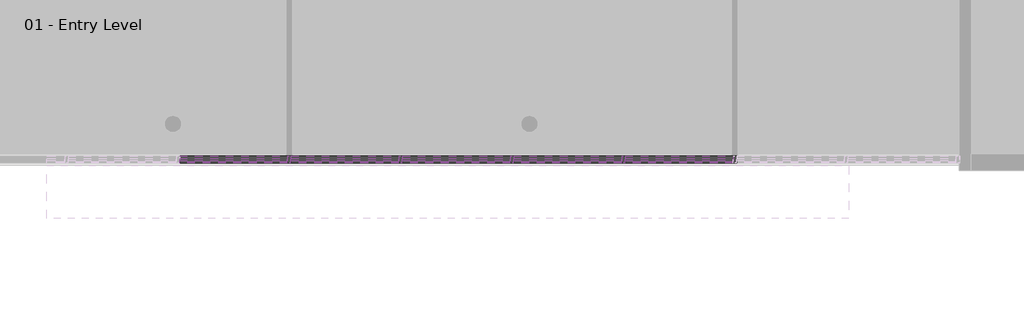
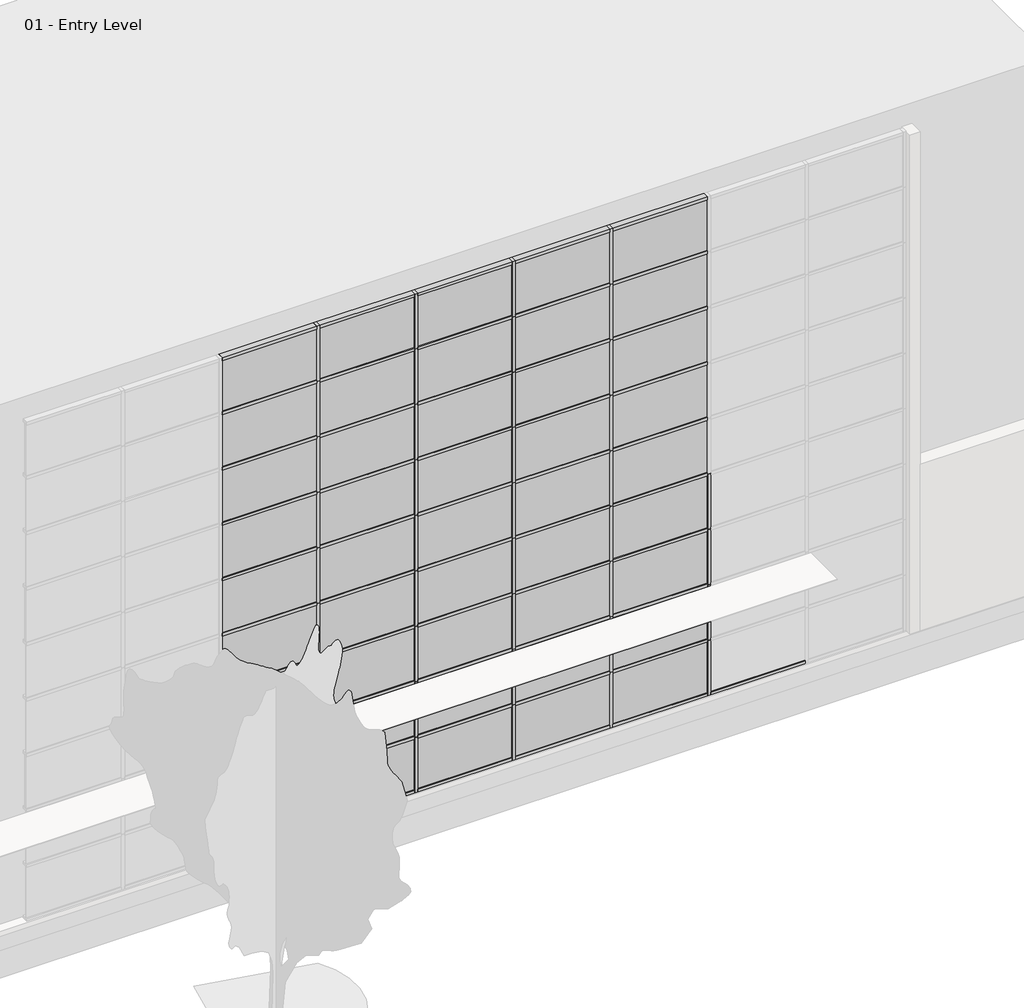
# One storey, part 5 of 35: 90 members, 42 plates.
"""IFC4 building model written with IfcOpenShell, lengths in millimetres."""

import ifcopenshell
import ifcopenshell.guid

model = None  # the IFC model being written
_history = None  # IfcOwnerHistory: only IFC2X3 demands one
_inside = {}  # id of a spatial element -> (the spatial element, [elements in it])
_under = {}  # id of a project, library or spatial element -> (it, [spatial elements below it])
_declared = {}  # id of a project -> (the project, [libraries it declares])
_typed = {}  # id of a type object -> (the type object, [elements of that type])
_made_of = {}  # id of a material, layer set ... -> (it, [elements and type objects made of it])


def new_model(schema):
    """Start an empty IFC model of exactly this schema.

    Asked for "IFC4X3", IfcOpenShell would pick the latest addendum, in which some entities
    have other attributes; the version numbers below select the first issue.
    IFC2X3 requires an IfcOwnerHistory on every rooted entity: one is made here for all.
    """
    global model, _history
    if schema == "IFC4X3":
        model = ifcopenshell.file(schema_version=(4, 3, 0, 0))
    else:
        model = ifcopenshell.file(schema=schema)
    _inside.clear()
    _under.clear()
    _declared.clear()
    _typed.clear()
    _made_of.clear()
    _history = None
    if model.schema == "IFC2X3":
        org = make("IfcOrganization", Name="unknown")
        user = make(
            "IfcPersonAndOrganization",
            ThePerson=make("IfcPerson", FamilyName="unknown"),
            TheOrganization=org,
        )
        app = make(
            "IfcApplication",
            ApplicationDeveloper=org,
            Version="unknown",
            ApplicationFullName="unknown",
            ApplicationIdentifier="unknown",
        )
        _history = make(
            "IfcOwnerHistory",
            OwningUser=user,
            OwningApplication=app,
            ChangeAction="ADDED",
            CreationDate=0,
        )
    return model


def make(cls, **values):
    """One entity of the class cls with the attributes given. An attribute that is None is left unset."""
    return model.create_entity(
        cls, **{name: value for name, value in values.items() if value is not None}
    )


def rooted(cls, **values):
    """An entity with a GlobalId (a new one), such as an element, a storey or a relation."""
    return make(cls, GlobalId=ifcopenshell.guid.new(), OwnerHistory=_history, **values)


def si_unit(unit_type, name, prefix=None):
    """IfcSIUnit, for example si_unit("LENGTHUNIT", "METRE", prefix="MILLI")."""
    return make("IfcSIUnit", UnitType=unit_type, Prefix=prefix, Name=name)


def assignment(units):
    """IfcUnitAssignment: the units of a project."""
    return None if units is None else make("IfcUnitAssignment", Units=units)


def point(xyz):
    """IfcCartesianPoint."""
    return None if xyz is None else make("IfcCartesianPoint", Coordinates=xyz)


def direction(xyz):
    """IfcDirection."""
    return None if xyz is None else make("IfcDirection", DirectionRatios=xyz)


def frame(location, z_axis=None, x_axis=None):
    """IfcAxis2Placement3D, a coordinate frame: its origin and axes. An axis left out is left unset."""
    return make(
        "IfcAxis2Placement3D",
        Location=point(location),
        Axis=direction(z_axis),
        RefDirection=direction(x_axis),
    )


def origin():
    """The frame at (0, 0, 0) with its axes left unset."""
    return frame((0.0, 0.0, 0.0))


def origin_with_axes():
    """The frame at (0, 0, 0) with the z axis (0, 0, 1) and the x axis (1, 0, 0) written out."""
    return frame((0.0, 0.0, 0.0), z_axis=(0.0, 0.0, 1.0), x_axis=(1.0, 0.0, 0.0))


def place(relative_to, where):
    """IfcLocalPlacement: puts the frame where relative to a parent placement (None: the world)."""
    return make(
        "IfcLocalPlacement", PlacementRelTo=relative_to, RelativePlacement=where
    )


def context(
    kind, dimensions, precision=None, world=None, true_north=None, identifier=None
):
    """IfcGeometricRepresentationContext, for example the 3D "Model" context."""
    return make(
        "IfcGeometricRepresentationContext",
        ContextIdentifier=identifier,
        ContextType=kind,
        CoordinateSpaceDimension=dimensions,
        Precision=precision,
        WorldCoordinateSystem=world,
        TrueNorth=true_north,
    )


def project(units=None, contexts=None):
    """IfcProject with its units and contexts."""
    return rooted(
        "IfcProject",
        Name="project",
        RepresentationContexts=contexts,
        UnitsInContext=assignment(units),
    )


def spatial(cls, under=None, at=None, **own):
    """A site, building, storey or space (cls), placed at a placement, below another one or the project."""
    s = rooted(cls, ObjectPlacement=at, **own)
    if under is not None:
        _under.setdefault(under.id(), (under, []))[1].append(s)
    return s


def polyline(points):
    """IfcPolyline through the points."""
    return make("IfcPolyline", Points=[point(p) for p in points])


def outline(outer, holes=None, kind="AREA"):
    """IfcArbitraryClosedProfileDef: a profile drawn as a closed curve; with holes, ...WithVoids."""
    if holes is None:
        return make("IfcArbitraryClosedProfileDef", ProfileType=kind, OuterCurve=outer)
    return make(
        "IfcArbitraryProfileDefWithVoids",
        ProfileType=kind,
        OuterCurve=outer,
        InnerCurves=holes,
    )


def extrude(swept, where, along, depth):
    """IfcExtrudedAreaSolid: the profile swept, set in the frame where, extruded along a direction by depth."""
    return make(
        "IfcExtrudedAreaSolid",
        SweptArea=swept,
        Position=where,
        ExtrudedDirection=direction(along),
        Depth=depth,
    )


def shape(context_of_items, identifier, shape_type, items):
    """IfcShapeRepresentation: the items that make up one representation, for example the "Body"."""
    return make(
        "IfcShapeRepresentation",
        ContextOfItems=context_of_items,
        RepresentationIdentifier=identifier,
        RepresentationType=shape_type,
        Items=items,
    )


def source(mapping_origin, context_of_items, identifier, shape_type, items):
    """IfcRepresentationMap: a shape defined once, which mapped items show again and again."""
    return make(
        "IfcRepresentationMap",
        MappingOrigin=mapping_origin,
        MappedRepresentation=shape(context_of_items, identifier, shape_type, items),
    )


def transform(
    local_origin,
    x_axis=None,
    y_axis=None,
    z_axis=None,
    scale=None,
    scale2=None,
    scale3=None,
    uniform=True,
):
    """IfcCartesianTransformationOperator3D, or its non-uniform kind. x_axis, y_axis, z_axis: its Axis1, 2, 3."""
    if uniform:
        return make(
            "IfcCartesianTransformationOperator3D",
            Axis1=direction(x_axis),
            Axis2=direction(y_axis),
            LocalOrigin=point(local_origin),
            Scale=scale,
            Axis3=direction(z_axis),
        )
    return make(
        "IfcCartesianTransformationOperator3DnonUniform",
        Axis1=direction(x_axis),
        Axis2=direction(y_axis),
        LocalOrigin=point(local_origin),
        Scale=scale,
        Axis3=direction(z_axis),
        Scale2=scale2,
        Scale3=scale3,
    )


def mapped(mapping_source, mapping_target):
    """IfcMappedItem: shows the shape of a source again, moved by a transform."""
    return make(
        "IfcMappedItem", MappingSource=mapping_source, MappingTarget=mapping_target
    )


def made_of(thing, what):
    """Note that an element or type object is made of a material, layer set ...; save() writes the relation."""
    if what is not None:
        _made_of.setdefault(what.id(), (what, []))[1].append(thing)
    return thing


def element(
    cls,
    number,
    at=None,
    inside=None,
    cuts=None,
    type_object=None,
    material=None,
    context=None,
    identifier="Body",
    shape_type=None,
    held_by="IfcProductDefinitionShape",
    body=None,
    shapes=None,
    **own,
):
    """One element of the class cls, such as IfcWall. Its Tag is "e" and its number.

    at: its placement. inside: the storey or other place that contains it. cuts: it is an
    opening in that element (IfcRelVoidsElement). A single representation is given by context,
    identifier, shape_type and body (its items); several are given by shapes. held_by: the class
    of the entity that holds the representations. save() writes the other relations.
    """
    e = rooted(cls, Tag="e%d" % number, ObjectPlacement=at, **own)
    if body is not None:
        shapes = [shape(context, identifier, shape_type, body)]
    if shapes is not None:
        e.Representation = make(held_by, Representations=shapes)
    if inside is not None:
        _inside.setdefault(inside.id(), (inside, []))[1].append(e)
    if cuts is not None:
        rooted(
            "IfcRelVoidsElement", RelatingBuildingElement=cuts, RelatedOpeningElement=e
        )
    if type_object is not None:
        _typed.setdefault(type_object.id(), (type_object, []))[1].append(e)
    return made_of(e, material)


def aggregate(whole, parts):
    """IfcRelAggregates: a whole, such as a stair, and the parts it consists of."""
    return rooted("IfcRelAggregates", RelatingObject=whole, RelatedObjects=parts)


def save(model, path):
    """Write the relations noted so far, then the file.

    IfcRelAggregates (storeys below a building ...), IfcRelContainedInSpatialStructure (elements
    in a storey), IfcRelDefinesByType, IfcRelAssociatesMaterial and IfcRelDeclares: one each for
    every whole, place, type object, material and project.
    """
    for whole, parts in _under.values():
        aggregate(whole, parts)
    for where, things in _inside.values():
        rooted(
            "IfcRelContainedInSpatialStructure",
            RelatedElements=things,
            RelatingStructure=where,
        )
    for kind, things in _typed.values():
        rooted("IfcRelDefinesByType", RelatedObjects=things, RelatingType=kind)
    for what, things in _made_of.values():
        rooted("IfcRelAssociatesMaterial", RelatedObjects=things, RelatingMaterial=what)
    for by, libraries in _declared.values():
        rooted("IfcRelDeclares", RelatingContext=by, RelatedDefinitions=libraries)
    model.write(path)


def member_2b49869a(model_context):
    return source(origin(), model_context, "Body", "SweptSolid", [
        extrude(outline(polyline([(31.75, 63.5), (31.75, -63.5), (-31.75, -63.5), (-31.75, 63.5), (31.75, 63.5)])), frame((0.0, 0.0, -1219.2), z_axis=(0.0, 0.0, 1.0), x_axis=(1.0, 0.0, 0.0)), (0.0, 0.0, 1.0), 1219.2),
    ])


def member_391b434c(model_context):
    return source(origin(), model_context, "Body", "SweptSolid", [
        extrude(outline(polyline([(0.0, 63.5), (0.0, -63.5), (-63.5, -63.5), (-63.5, 63.5), (0.0, 63.5)])), frame((0.0, 0.0, -1968.5), z_axis=(0.0, 0.0, 1.0), x_axis=(1.0, 0.0, 0.0)), (0.0, 0.0, 1.0), 1968.5),
    ])


def member_9e90ae50(model_context):
    return source(origin(), model_context, "Body", "SweptSolid", [
        extrude(outline(polyline([(31.75, 63.5), (31.75, -63.5), (-31.75, -63.5), (-31.75, 63.5), (31.75, 63.5)])), frame((0.0, 0.0, -1968.5), z_axis=(0.0, 0.0, 1.0), x_axis=(1.0, 0.0, 0.0)), (0.0, 0.0, 1.0), 1968.5),
    ])


def system_panel_glazed_1b9d6098(model_context):
    return source(origin(), model_context, "Body", "SweptSolid", [
        extrude(outline(polyline([(984.25, -44.45), (-984.25, -44.45), (-984.25, -19.05), (984.25, -19.05), (984.25, -44.45)])), origin_with_axes(), (0.0, 0.0, 1.0), 1123.95),
    ])


def system_panel_glazed_70da479d(model_context):
    return source(origin(), model_context, "Body", "SweptSolid", [
        extrude(outline(polyline([(984.25, -44.45), (-984.25, -44.45), (-984.25, -19.05), (984.25, -19.05), (984.25, -44.45)])), origin_with_axes(), (0.0, 0.0, 1.0), 1155.7),
    ])


def system_panel_solid_b376696c(model_context):
    return source(origin(), model_context, "Body", "SweptSolid", [
        extrude(outline(polyline([(984.25, -44.45), (-984.25, -44.45), (-984.25, 19.05), (984.25, 19.05), (984.25, -44.45)])), origin_with_axes(), (0.0, 0.0, 1.0), 1123.95),
    ])


def system_panel_solid_77e8b053(model_context):
    return source(origin(), model_context, "Body", "SweptSolid", [
        extrude(outline(polyline([(984.25, -44.45), (-984.25, -44.45), (-984.25, 19.05), (984.25, 19.05), (984.25, -44.45)])), origin_with_axes(), (0.0, 0.0, 1.0), 1155.7),
    ])


model = new_model("IFC4")

# Units and contexts
model_context = context("Model", 3, world=origin())
ifc_project = project(units=[si_unit("LENGTHUNIT", "METRE", prefix="MILLI")], contexts=[model_context])

# Site, building, storey
site = spatial("IfcSite", under=ifc_project)
building = spatial("IfcBuilding", under=site)
storey = spatial("IfcBuildingStorey", under=building, Name="01 - Entry Level", Elevation=0.0)

# Members
placement = place(None, origin())
member_shape = member_2b49869a(model_context)
element("IfcMember", 1, ObjectType="Rectangular Mullion : 2.5\" x 5\" rectangular", at=placement, inside=storey, context=model_context, shape_type="MappedRepresentation", body=[
    mapped(member_shape, transform((50915.2207476, -47.7, 9753.6), x_axis=(1.0, 0.0, 0.0), y_axis=(0.0, -1.0, 0.0), z_axis=(0.0, 0.0, -1.0))),
])
element("IfcMember", 2, ObjectType="Rectangular Mullion : 2.5\" x 5\" rectangular", at=placement, inside=storey, context=model_context, shape_type="MappedRepresentation", body=[
    mapped(member_shape, transform((52947.2207476, -47.7, 9753.6), x_axis=(1.0, 0.0, 0.0), y_axis=(0.0, -1.0, 0.0), z_axis=(0.0, 0.0, -1.0))),
])
element("IfcMember", 3, ObjectType="Rectangular Mullion : 2.5\" x 5\" rectangular", at=placement, inside=storey, context=model_context, shape_type="MappedRepresentation", body=[
    mapped(member_shape, transform((54979.2207476, -47.7, 9753.6), x_axis=(1.0, 0.0, 0.0), y_axis=(0.0, -1.0, 0.0), z_axis=(0.0, 0.0, -1.0))),
])
element("IfcMember", 4, ObjectType="Rectangular Mullion : 2.5\" x 5\" rectangular", at=placement, inside=storey, context=model_context, shape_type="MappedRepresentation", body=[
    mapped(member_shape, transform((57011.2207476, -47.7, 9753.6), x_axis=(1.0, 0.0, 0.0), y_axis=(0.0, -1.0, 0.0), z_axis=(0.0, 0.0, -1.0))),
])
member_2_shape = member_391b434c(model_context)
element("IfcMember", 5, ObjectType="Rectangular Mullion : 2.5\" x 5\" rectangular", at=placement, inside=storey, context=model_context, shape_type="MappedRepresentation", body=[
    mapped(member_2_shape, transform((50883.4707476, -47.7, 10972.8), x_axis=(0.0, 0.0, 1.0), y_axis=(0.0, -1.0, 0.0), z_axis=(1.0, 0.0, 0.0))),
])
element("IfcMember", 6, ObjectType="Rectangular Mullion : 2.5\" x 5\" rectangular", at=placement, inside=storey, context=model_context, shape_type="MappedRepresentation", body=[
    mapped(member_2_shape, transform((52915.4707476, -47.7, 10972.8), x_axis=(0.0, 0.0, 1.0), y_axis=(0.0, -1.0, 0.0), z_axis=(1.0, 0.0, 0.0))),
])
element("IfcMember", 7, ObjectType="Rectangular Mullion : 2.5\" x 5\" rectangular", at=placement, inside=storey, context=model_context, shape_type="MappedRepresentation", body=[
    mapped(member_2_shape, transform((54947.4707476, -47.7, 10972.8), x_axis=(0.0, 0.0, 1.0), y_axis=(0.0, -1.0, 0.0), z_axis=(1.0, 0.0, 0.0))),
])
element("IfcMember", 8, ObjectType="Rectangular Mullion : 2.5\" x 5\" rectangular", at=placement, inside=storey, context=model_context, shape_type="MappedRepresentation", body=[
    mapped(member_2_shape, transform((56979.4707476, -47.7, 10972.8), x_axis=(0.0, 0.0, 1.0), y_axis=(0.0, -1.0, 0.0), z_axis=(1.0, 0.0, 0.0))),
])
element("IfcMember", 9, ObjectType="Rectangular Mullion : 2.5\" x 5\" rectangular", at=placement, inside=storey, context=model_context, shape_type="MappedRepresentation", body=[
    mapped(member_2_shape, transform((59011.4707476, -47.7, 10972.8), x_axis=(0.0, 0.0, 1.0), y_axis=(0.0, -1.0, 0.0), z_axis=(1.0, 0.0, 0.0))),
])
element("IfcMember", 10, ObjectType="Rectangular Mullion : 2.5\" x 5\" rectangular", at=placement, inside=storey, context=model_context, shape_type="MappedRepresentation", body=[
    mapped(member_2_shape, transform((50946.9707476, -47.7, 0.0), x_axis=(0.0, 0.0, -1.0), y_axis=(0.0, -1.0, 0.0), z_axis=(-1.0, 0.0, 0.0))),
])
element("IfcMember", 11, ObjectType="Rectangular Mullion : 2.5\" x 5\" rectangular", at=placement, inside=storey, context=model_context, shape_type="MappedRepresentation", body=[
    mapped(member_2_shape, transform((52978.9707476, -47.7, 0.0), x_axis=(0.0, 0.0, -1.0), y_axis=(0.0, -1.0, 0.0), z_axis=(-1.0, 0.0, 0.0))),
])
element("IfcMember", 12, ObjectType="Rectangular Mullion : 2.5\" x 5\" rectangular", at=placement, inside=storey, context=model_context, shape_type="MappedRepresentation", body=[
    mapped(member_2_shape, transform((55010.9707476, -47.7, 0.0), x_axis=(0.0, 0.0, -1.0), y_axis=(0.0, -1.0, 0.0), z_axis=(-1.0, 0.0, 0.0))),
])
element("IfcMember", 13, ObjectType="Rectangular Mullion : 2.5\" x 5\" rectangular", at=placement, inside=storey, context=model_context, shape_type="MappedRepresentation", body=[
    mapped(member_2_shape, transform((57042.9707476, -47.7, 0.0), x_axis=(0.0, 0.0, -1.0), y_axis=(0.0, -1.0, 0.0), z_axis=(-1.0, 0.0, 0.0))),
])
element("IfcMember", 14, ObjectType="Rectangular Mullion : 2.5\" x 5\" rectangular", at=placement, inside=storey, context=model_context, shape_type="MappedRepresentation", body=[
    mapped(member_2_shape, transform((59074.9707476, -47.7, 0.0), x_axis=(0.0, 0.0, -1.0), y_axis=(0.0, -1.0, 0.0), z_axis=(-1.0, 0.0, 0.0))),
])
member_3_shape = member_9e90ae50(model_context)
element("IfcMember", 15, ObjectType="Rectangular Mullion : 2.5\" x 5\" rectangular", at=placement, inside=storey, context=model_context, shape_type="MappedRepresentation", body=[
    mapped(member_3_shape, transform((50883.4707476, -47.7, 1219.2), x_axis=(0.0, 0.0, 1.0), y_axis=(0.0, -1.0, 0.0), z_axis=(1.0, 0.0, 0.0))),
])
element("IfcMember", 16, ObjectType="Rectangular Mullion : 2.5\" x 5\" rectangular", at=placement, inside=storey, context=model_context, shape_type="MappedRepresentation", body=[
    mapped(member_3_shape, transform((52915.4707476, -47.7, 1219.2), x_axis=(0.0, 0.0, 1.0), y_axis=(0.0, -1.0, 0.0), z_axis=(1.0, 0.0, 0.0))),
])
element("IfcMember", 17, ObjectType="Rectangular Mullion : 2.5\" x 5\" rectangular", at=placement, inside=storey, context=model_context, shape_type="MappedRepresentation", body=[
    mapped(member_3_shape, transform((54947.4707476, -47.7, 1219.2), x_axis=(0.0, 0.0, 1.0), y_axis=(0.0, -1.0, 0.0), z_axis=(1.0, 0.0, 0.0))),
])
element("IfcMember", 18, ObjectType="Rectangular Mullion : 2.5\" x 5\" rectangular", at=placement, inside=storey, context=model_context, shape_type="MappedRepresentation", body=[
    mapped(member_3_shape, transform((56979.4707476, -47.7, 1219.2), x_axis=(0.0, 0.0, 1.0), y_axis=(0.0, -1.0, 0.0), z_axis=(1.0, 0.0, 0.0))),
])
element("IfcMember", 19, ObjectType="Rectangular Mullion : 2.5\" x 5\" rectangular", at=placement, inside=storey, context=model_context, shape_type="MappedRepresentation", body=[
    mapped(member_3_shape, transform((59011.4707476, -47.7, 1219.2), x_axis=(0.0, 0.0, 1.0), y_axis=(0.0, -1.0, 0.0), z_axis=(1.0, 0.0, 0.0))),
])
element("IfcMember", 20, ObjectType="Rectangular Mullion : 2.5\" x 5\" rectangular", at=placement, inside=storey, context=model_context, shape_type="MappedRepresentation", body=[
    mapped(member_3_shape, transform((50883.4707476, -47.7, 2438.4), x_axis=(0.0, 0.0, 1.0), y_axis=(0.0, -1.0, 0.0), z_axis=(1.0, 0.0, 0.0))),
])
element("IfcMember", 21, ObjectType="Rectangular Mullion : 2.5\" x 5\" rectangular", at=placement, inside=storey, context=model_context, shape_type="MappedRepresentation", body=[
    mapped(member_3_shape, transform((52915.4707476, -47.7, 2438.4), x_axis=(0.0, 0.0, 1.0), y_axis=(0.0, -1.0, 0.0), z_axis=(1.0, 0.0, 0.0))),
])
element("IfcMember", 22, ObjectType="Rectangular Mullion : 2.5\" x 5\" rectangular", at=placement, inside=storey, context=model_context, shape_type="MappedRepresentation", body=[
    mapped(member_3_shape, transform((54947.4707476, -47.7, 2438.4), x_axis=(0.0, 0.0, 1.0), y_axis=(0.0, -1.0, 0.0), z_axis=(1.0, 0.0, 0.0))),
])
element("IfcMember", 23, ObjectType="Rectangular Mullion : 2.5\" x 5\" rectangular", at=placement, inside=storey, context=model_context, shape_type="MappedRepresentation", body=[
    mapped(member_3_shape, transform((56979.4707476, -47.7, 2438.4), x_axis=(0.0, 0.0, 1.0), y_axis=(0.0, -1.0, 0.0), z_axis=(1.0, 0.0, 0.0))),
])
element("IfcMember", 24, ObjectType="Rectangular Mullion : 2.5\" x 5\" rectangular", at=placement, inside=storey, context=model_context, shape_type="MappedRepresentation", body=[
    mapped(member_3_shape, transform((59011.4707476, -47.7, 2438.4), x_axis=(0.0, 0.0, 1.0), y_axis=(0.0, -1.0, 0.0), z_axis=(1.0, 0.0, 0.0))),
])
element("IfcMember", 25, ObjectType="Rectangular Mullion : 2.5\" x 5\" rectangular", at=placement, inside=storey, context=model_context, shape_type="MappedRepresentation", body=[
    mapped(member_3_shape, transform((50883.4707476, -47.7, 3657.6), x_axis=(0.0, 0.0, 1.0), y_axis=(0.0, -1.0, 0.0), z_axis=(1.0, 0.0, 0.0))),
])
element("IfcMember", 26, ObjectType="Rectangular Mullion : 2.5\" x 5\" rectangular", at=placement, inside=storey, context=model_context, shape_type="MappedRepresentation", body=[
    mapped(member_3_shape, transform((52915.4707476, -47.7, 3657.6), x_axis=(0.0, 0.0, 1.0), y_axis=(0.0, -1.0, 0.0), z_axis=(1.0, 0.0, 0.0))),
])
element("IfcMember", 27, ObjectType="Rectangular Mullion : 2.5\" x 5\" rectangular", at=placement, inside=storey, context=model_context, shape_type="MappedRepresentation", body=[
    mapped(member_3_shape, transform((54947.4707476, -47.7, 3657.6), x_axis=(0.0, 0.0, 1.0), y_axis=(0.0, -1.0, 0.0), z_axis=(1.0, 0.0, 0.0))),
])
element("IfcMember", 28, ObjectType="Rectangular Mullion : 2.5\" x 5\" rectangular", at=placement, inside=storey, context=model_context, shape_type="MappedRepresentation", body=[
    mapped(member_3_shape, transform((56979.4707476, -47.7, 3657.6), x_axis=(0.0, 0.0, 1.0), y_axis=(0.0, -1.0, 0.0), z_axis=(1.0, 0.0, 0.0))),
])
element("IfcMember", 29, ObjectType="Rectangular Mullion : 2.5\" x 5\" rectangular", at=placement, inside=storey, context=model_context, shape_type="MappedRepresentation", body=[
    mapped(member_3_shape, transform((59011.4707476, -47.7, 3657.6), x_axis=(0.0, 0.0, 1.0), y_axis=(0.0, -1.0, 0.0), z_axis=(1.0, 0.0, 0.0))),
])
element("IfcMember", 30, ObjectType="Rectangular Mullion : 2.5\" x 5\" rectangular", at=placement, inside=storey, context=model_context, shape_type="MappedRepresentation", body=[
    mapped(member_3_shape, transform((50883.4707476, -47.7, 4876.8), x_axis=(0.0, 0.0, 1.0), y_axis=(0.0, -1.0, 0.0), z_axis=(1.0, 0.0, 0.0))),
])
element("IfcMember", 31, ObjectType="Rectangular Mullion : 2.5\" x 5\" rectangular", at=placement, inside=storey, context=model_context, shape_type="MappedRepresentation", body=[
    mapped(member_3_shape, transform((52915.4707476, -47.7, 4876.8), x_axis=(0.0, 0.0, 1.0), y_axis=(0.0, -1.0, 0.0), z_axis=(1.0, 0.0, 0.0))),
])
element("IfcMember", 32, ObjectType="Rectangular Mullion : 2.5\" x 5\" rectangular", at=placement, inside=storey, context=model_context, shape_type="MappedRepresentation", body=[
    mapped(member_3_shape, transform((54947.4707476, -47.7, 4876.8), x_axis=(0.0, 0.0, 1.0), y_axis=(0.0, -1.0, 0.0), z_axis=(1.0, 0.0, 0.0))),
])
element("IfcMember", 33, ObjectType="Rectangular Mullion : 2.5\" x 5\" rectangular", at=placement, inside=storey, context=model_context, shape_type="MappedRepresentation", body=[
    mapped(member_3_shape, transform((56979.4707476, -47.7, 4876.8), x_axis=(0.0, 0.0, 1.0), y_axis=(0.0, -1.0, 0.0), z_axis=(1.0, 0.0, 0.0))),
])
element("IfcMember", 34, ObjectType="Rectangular Mullion : 2.5\" x 5\" rectangular", at=placement, inside=storey, context=model_context, shape_type="MappedRepresentation", body=[
    mapped(member_3_shape, transform((59011.4707476, -47.7, 4876.8), x_axis=(0.0, 0.0, 1.0), y_axis=(0.0, -1.0, 0.0), z_axis=(1.0, 0.0, 0.0))),
])
element("IfcMember", 35, ObjectType="Rectangular Mullion : 2.5\" x 5\" rectangular", at=placement, inside=storey, context=model_context, shape_type="MappedRepresentation", body=[
    mapped(member_3_shape, transform((50883.4707476, -47.7, 6096.0), x_axis=(0.0, 0.0, 1.0), y_axis=(0.0, -1.0, 0.0), z_axis=(1.0, 0.0, 0.0))),
])
element("IfcMember", 36, ObjectType="Rectangular Mullion : 2.5\" x 5\" rectangular", at=placement, inside=storey, context=model_context, shape_type="MappedRepresentation", body=[
    mapped(member_3_shape, transform((52915.4707476, -47.7, 6096.0), x_axis=(0.0, 0.0, 1.0), y_axis=(0.0, -1.0, 0.0), z_axis=(1.0, 0.0, 0.0))),
])
element("IfcMember", 37, ObjectType="Rectangular Mullion : 2.5\" x 5\" rectangular", at=placement, inside=storey, context=model_context, shape_type="MappedRepresentation", body=[
    mapped(member_3_shape, transform((54947.4707476, -47.7, 6096.0), x_axis=(0.0, 0.0, 1.0), y_axis=(0.0, -1.0, 0.0), z_axis=(1.0, 0.0, 0.0))),
])
element("IfcMember", 38, ObjectType="Rectangular Mullion : 2.5\" x 5\" rectangular", at=placement, inside=storey, context=model_context, shape_type="MappedRepresentation", body=[
    mapped(member_3_shape, transform((56979.4707476, -47.7, 6096.0), x_axis=(0.0, 0.0, 1.0), y_axis=(0.0, -1.0, 0.0), z_axis=(1.0, 0.0, 0.0))),
])
element("IfcMember", 39, ObjectType="Rectangular Mullion : 2.5\" x 5\" rectangular", at=placement, inside=storey, context=model_context, shape_type="MappedRepresentation", body=[
    mapped(member_3_shape, transform((59011.4707476, -47.7, 6096.0), x_axis=(0.0, 0.0, 1.0), y_axis=(0.0, -1.0, 0.0), z_axis=(1.0, 0.0, 0.0))),
])
element("IfcMember", 40, ObjectType="Rectangular Mullion : 2.5\" x 5\" rectangular", at=placement, inside=storey, context=model_context, shape_type="MappedRepresentation", body=[
    mapped(member_3_shape, transform((50883.4707476, -47.7, 7315.2), x_axis=(0.0, 0.0, 1.0), y_axis=(0.0, -1.0, 0.0), z_axis=(1.0, 0.0, 0.0))),
])
element("IfcMember", 41, ObjectType="Rectangular Mullion : 2.5\" x 5\" rectangular", at=placement, inside=storey, context=model_context, shape_type="MappedRepresentation", body=[
    mapped(member_3_shape, transform((52915.4707476, -47.7, 7315.2), x_axis=(0.0, 0.0, 1.0), y_axis=(0.0, -1.0, 0.0), z_axis=(1.0, 0.0, 0.0))),
])
element("IfcMember", 42, ObjectType="Rectangular Mullion : 2.5\" x 5\" rectangular", at=placement, inside=storey, context=model_context, shape_type="MappedRepresentation", body=[
    mapped(member_3_shape, transform((54947.4707476, -47.7, 7315.2), x_axis=(0.0, 0.0, 1.0), y_axis=(0.0, -1.0, 0.0), z_axis=(1.0, 0.0, 0.0))),
])
element("IfcMember", 43, ObjectType="Rectangular Mullion : 2.5\" x 5\" rectangular", at=placement, inside=storey, context=model_context, shape_type="MappedRepresentation", body=[
    mapped(member_3_shape, transform((56979.4707476, -47.7, 7315.2), x_axis=(0.0, 0.0, 1.0), y_axis=(0.0, -1.0, 0.0), z_axis=(1.0, 0.0, 0.0))),
])
element("IfcMember", 44, ObjectType="Rectangular Mullion : 2.5\" x 5\" rectangular", at=placement, inside=storey, context=model_context, shape_type="MappedRepresentation", body=[
    mapped(member_3_shape, transform((59011.4707476, -47.7, 7315.2), x_axis=(0.0, 0.0, 1.0), y_axis=(0.0, -1.0, 0.0), z_axis=(1.0, 0.0, 0.0))),
])
element("IfcMember", 45, ObjectType="Rectangular Mullion : 2.5\" x 5\" rectangular", at=placement, inside=storey, context=model_context, shape_type="MappedRepresentation", body=[
    mapped(member_3_shape, transform((50883.4707476, -47.7, 8534.4), x_axis=(0.0, 0.0, 1.0), y_axis=(0.0, -1.0, 0.0), z_axis=(1.0, 0.0, 0.0))),
])
element("IfcMember", 46, ObjectType="Rectangular Mullion : 2.5\" x 5\" rectangular", at=placement, inside=storey, context=model_context, shape_type="MappedRepresentation", body=[
    mapped(member_3_shape, transform((52915.4707476, -47.7, 8534.4), x_axis=(0.0, 0.0, 1.0), y_axis=(0.0, -1.0, 0.0), z_axis=(1.0, 0.0, 0.0))),
])
element("IfcMember", 47, ObjectType="Rectangular Mullion : 2.5\" x 5\" rectangular", at=placement, inside=storey, context=model_context, shape_type="MappedRepresentation", body=[
    mapped(member_3_shape, transform((54947.4707476, -47.7, 8534.4), x_axis=(0.0, 0.0, 1.0), y_axis=(0.0, -1.0, 0.0), z_axis=(1.0, 0.0, 0.0))),
])
element("IfcMember", 48, ObjectType="Rectangular Mullion : 2.5\" x 5\" rectangular", at=placement, inside=storey, context=model_context, shape_type="MappedRepresentation", body=[
    mapped(member_3_shape, transform((56979.4707476, -47.7, 8534.4), x_axis=(0.0, 0.0, 1.0), y_axis=(0.0, -1.0, 0.0), z_axis=(1.0, 0.0, 0.0))),
])
element("IfcMember", 49, ObjectType="Rectangular Mullion : 2.5\" x 5\" rectangular", at=placement, inside=storey, context=model_context, shape_type="MappedRepresentation", body=[
    mapped(member_3_shape, transform((59011.4707476, -47.7, 8534.4), x_axis=(0.0, 0.0, 1.0), y_axis=(0.0, -1.0, 0.0), z_axis=(1.0, 0.0, 0.0))),
])
element("IfcMember", 50, ObjectType="Rectangular Mullion : 2.5\" x 5\" rectangular", at=placement, inside=storey, context=model_context, shape_type="MappedRepresentation", body=[
    mapped(member_3_shape, transform((50883.4707476, -47.7, 9753.6), x_axis=(0.0, 0.0, 1.0), y_axis=(0.0, -1.0, 0.0), z_axis=(1.0, 0.0, 0.0))),
])
element("IfcMember", 51, ObjectType="Rectangular Mullion : 2.5\" x 5\" rectangular", at=placement, inside=storey, context=model_context, shape_type="MappedRepresentation", body=[
    mapped(member_3_shape, transform((52915.4707476, -47.7, 9753.6), x_axis=(0.0, 0.0, 1.0), y_axis=(0.0, -1.0, 0.0), z_axis=(1.0, 0.0, 0.0))),
])
element("IfcMember", 52, ObjectType="Rectangular Mullion : 2.5\" x 5\" rectangular", at=placement, inside=storey, context=model_context, shape_type="MappedRepresentation", body=[
    mapped(member_3_shape, transform((54947.4707476, -47.7, 9753.6), x_axis=(0.0, 0.0, 1.0), y_axis=(0.0, -1.0, 0.0), z_axis=(1.0, 0.0, 0.0))),
])
element("IfcMember", 53, ObjectType="Rectangular Mullion : 2.5\" x 5\" rectangular", at=placement, inside=storey, context=model_context, shape_type="MappedRepresentation", body=[
    mapped(member_3_shape, transform((56979.4707476, -47.7, 9753.6), x_axis=(0.0, 0.0, 1.0), y_axis=(0.0, -1.0, 0.0), z_axis=(1.0, 0.0, 0.0))),
])
element("IfcMember", 54, ObjectType="Rectangular Mullion : 2.5\" x 5\" rectangular", at=placement, inside=storey, context=model_context, shape_type="MappedRepresentation", body=[
    mapped(member_3_shape, transform((59011.4707476, -47.7, 9753.6), x_axis=(0.0, 0.0, 1.0), y_axis=(0.0, -1.0, 0.0), z_axis=(1.0, 0.0, 0.0))),
])
element("IfcMember", 55, ObjectType="Rectangular Mullion : 2.5\" x 5\" rectangular", at=placement, inside=storey, context=model_context, shape_type="MappedRepresentation", body=[
    mapped(member_shape, transform((50915.2207476, -47.7, 0.0), x_axis=(1.0, 0.0, 0.0), y_axis=(0.0, -1.0, 0.0), z_axis=(0.0, 0.0, -1.0))),
])
element("IfcMember", 56, ObjectType="Rectangular Mullion : 2.5\" x 5\" rectangular", at=placement, inside=storey, context=model_context, shape_type="MappedRepresentation", body=[
    mapped(member_shape, transform((52947.2207476, -47.7, 0.0), x_axis=(1.0, 0.0, 0.0), y_axis=(0.0, -1.0, 0.0), z_axis=(0.0, 0.0, -1.0))),
])
element("IfcMember", 57, ObjectType="Rectangular Mullion : 2.5\" x 5\" rectangular", at=placement, inside=storey, context=model_context, shape_type="MappedRepresentation", body=[
    mapped(member_shape, transform((54979.2207476, -47.7, 0.0), x_axis=(1.0, 0.0, 0.0), y_axis=(0.0, -1.0, 0.0), z_axis=(0.0, 0.0, -1.0))),
])
element("IfcMember", 58, ObjectType="Rectangular Mullion : 2.5\" x 5\" rectangular", at=placement, inside=storey, context=model_context, shape_type="MappedRepresentation", body=[
    mapped(member_shape, transform((57011.2207476, -47.7, 0.0), x_axis=(1.0, 0.0, 0.0), y_axis=(0.0, -1.0, 0.0), z_axis=(0.0, 0.0, -1.0))),
])
element("IfcMember", 59, ObjectType="Rectangular Mullion : 2.5\" x 5\" rectangular", at=placement, inside=storey, context=model_context, shape_type="MappedRepresentation", body=[
    mapped(member_shape, transform((59043.2207476, -47.7, 0.0), x_axis=(1.0, 0.0, 0.0), y_axis=(0.0, -1.0, 0.0), z_axis=(0.0, 0.0, -1.0))),
])
element("IfcMember", 60, ObjectType="Rectangular Mullion : 2.5\" x 5\" rectangular", at=placement, inside=storey, context=model_context, shape_type="MappedRepresentation", body=[
    mapped(member_shape, transform((50915.2207476, -47.7, 1219.2), x_axis=(1.0, 0.0, 0.0), y_axis=(0.0, -1.0, 0.0), z_axis=(0.0, 0.0, -1.0))),
])
element("IfcMember", 61, ObjectType="Rectangular Mullion : 2.5\" x 5\" rectangular", at=placement, inside=storey, context=model_context, shape_type="MappedRepresentation", body=[
    mapped(member_shape, transform((52947.2207476, -47.7, 1219.2), x_axis=(1.0, 0.0, 0.0), y_axis=(0.0, -1.0, 0.0), z_axis=(0.0, 0.0, -1.0))),
])
element("IfcMember", 62, ObjectType="Rectangular Mullion : 2.5\" x 5\" rectangular", at=placement, inside=storey, context=model_context, shape_type="MappedRepresentation", body=[
    mapped(member_shape, transform((54979.2207476, -47.7, 1219.2), x_axis=(1.0, 0.0, 0.0), y_axis=(0.0, -1.0, 0.0), z_axis=(0.0, 0.0, -1.0))),
])
element("IfcMember", 63, ObjectType="Rectangular Mullion : 2.5\" x 5\" rectangular", at=placement, inside=storey, context=model_context, shape_type="MappedRepresentation", body=[
    mapped(member_shape, transform((57011.2207476, -47.7, 1219.2), x_axis=(1.0, 0.0, 0.0), y_axis=(0.0, -1.0, 0.0), z_axis=(0.0, 0.0, -1.0))),
])
element("IfcMember", 64, ObjectType="Rectangular Mullion : 2.5\" x 5\" rectangular", at=placement, inside=storey, context=model_context, shape_type="MappedRepresentation", body=[
    mapped(member_shape, transform((59043.2207476, -47.7, 1219.2), x_axis=(1.0, 0.0, 0.0), y_axis=(0.0, -1.0, 0.0), z_axis=(0.0, 0.0, -1.0))),
])
element("IfcMember", 65, ObjectType="Rectangular Mullion : 2.5\" x 5\" rectangular", at=placement, inside=storey, context=model_context, shape_type="MappedRepresentation", body=[
    mapped(member_shape, transform((50915.2207476, -47.7, 2438.4), x_axis=(1.0, 0.0, 0.0), y_axis=(0.0, -1.0, 0.0), z_axis=(0.0, 0.0, -1.0))),
])
element("IfcMember", 66, ObjectType="Rectangular Mullion : 2.5\" x 5\" rectangular", at=placement, inside=storey, context=model_context, shape_type="MappedRepresentation", body=[
    mapped(member_shape, transform((52947.2207476, -47.7, 2438.4), x_axis=(1.0, 0.0, 0.0), y_axis=(0.0, -1.0, 0.0), z_axis=(0.0, 0.0, -1.0))),
])
element("IfcMember", 67, ObjectType="Rectangular Mullion : 2.5\" x 5\" rectangular", at=placement, inside=storey, context=model_context, shape_type="MappedRepresentation", body=[
    mapped(member_shape, transform((54979.2207476, -47.7, 2438.4), x_axis=(1.0, 0.0, 0.0), y_axis=(0.0, -1.0, 0.0), z_axis=(0.0, 0.0, -1.0))),
])
element("IfcMember", 68, ObjectType="Rectangular Mullion : 2.5\" x 5\" rectangular", at=placement, inside=storey, context=model_context, shape_type="MappedRepresentation", body=[
    mapped(member_shape, transform((57011.2207476, -47.7, 2438.4), x_axis=(1.0, 0.0, 0.0), y_axis=(0.0, -1.0, 0.0), z_axis=(0.0, 0.0, -1.0))),
])
element("IfcMember", 69, ObjectType="Rectangular Mullion : 2.5\" x 5\" rectangular", at=placement, inside=storey, context=model_context, shape_type="MappedRepresentation", body=[
    mapped(member_shape, transform((59043.2207476, -47.7, 2438.4), x_axis=(1.0, 0.0, 0.0), y_axis=(0.0, -1.0, 0.0), z_axis=(0.0, 0.0, -1.0))),
])
element("IfcMember", 70, ObjectType="Rectangular Mullion : 2.5\" x 5\" rectangular", at=placement, inside=storey, context=model_context, shape_type="MappedRepresentation", body=[
    mapped(member_shape, transform((50915.2207476, -47.7, 3657.6), x_axis=(1.0, 0.0, 0.0), y_axis=(0.0, -1.0, 0.0), z_axis=(0.0, 0.0, -1.0))),
])
element("IfcMember", 71, ObjectType="Rectangular Mullion : 2.5\" x 5\" rectangular", at=placement, inside=storey, context=model_context, shape_type="MappedRepresentation", body=[
    mapped(member_shape, transform((52947.2207476, -47.7, 3657.6), x_axis=(1.0, 0.0, 0.0), y_axis=(0.0, -1.0, 0.0), z_axis=(0.0, 0.0, -1.0))),
])
element("IfcMember", 72, ObjectType="Rectangular Mullion : 2.5\" x 5\" rectangular", at=placement, inside=storey, context=model_context, shape_type="MappedRepresentation", body=[
    mapped(member_shape, transform((54979.2207476, -47.7, 3657.6), x_axis=(1.0, 0.0, 0.0), y_axis=(0.0, -1.0, 0.0), z_axis=(0.0, 0.0, -1.0))),
])
element("IfcMember", 73, ObjectType="Rectangular Mullion : 2.5\" x 5\" rectangular", at=placement, inside=storey, context=model_context, shape_type="MappedRepresentation", body=[
    mapped(member_shape, transform((57011.2207476, -47.7, 3657.6), x_axis=(1.0, 0.0, 0.0), y_axis=(0.0, -1.0, 0.0), z_axis=(0.0, 0.0, -1.0))),
])
element("IfcMember", 74, ObjectType="Rectangular Mullion : 2.5\" x 5\" rectangular", at=placement, inside=storey, context=model_context, shape_type="MappedRepresentation", body=[
    mapped(member_shape, transform((59043.2207476, -47.7, 3657.6), x_axis=(1.0, 0.0, 0.0), y_axis=(0.0, -1.0, 0.0), z_axis=(0.0, 0.0, -1.0))),
])
element("IfcMember", 75, ObjectType="Rectangular Mullion : 2.5\" x 5\" rectangular", at=placement, inside=storey, context=model_context, shape_type="MappedRepresentation", body=[
    mapped(member_shape, transform((50915.2207476, -47.7, 4876.8), x_axis=(1.0, 0.0, 0.0), y_axis=(0.0, -1.0, 0.0), z_axis=(0.0, 0.0, -1.0))),
])
element("IfcMember", 76, ObjectType="Rectangular Mullion : 2.5\" x 5\" rectangular", at=placement, inside=storey, context=model_context, shape_type="MappedRepresentation", body=[
    mapped(member_shape, transform((52947.2207476, -47.7, 4876.8), x_axis=(1.0, 0.0, 0.0), y_axis=(0.0, -1.0, 0.0), z_axis=(0.0, 0.0, -1.0))),
])
element("IfcMember", 77, ObjectType="Rectangular Mullion : 2.5\" x 5\" rectangular", at=placement, inside=storey, context=model_context, shape_type="MappedRepresentation", body=[
    mapped(member_shape, transform((54979.2207476, -47.7, 4876.8), x_axis=(1.0, 0.0, 0.0), y_axis=(0.0, -1.0, 0.0), z_axis=(0.0, 0.0, -1.0))),
])
element("IfcMember", 78, ObjectType="Rectangular Mullion : 2.5\" x 5\" rectangular", at=placement, inside=storey, context=model_context, shape_type="MappedRepresentation", body=[
    mapped(member_shape, transform((57011.2207476, -47.7, 4876.8), x_axis=(1.0, 0.0, 0.0), y_axis=(0.0, -1.0, 0.0), z_axis=(0.0, 0.0, -1.0))),
])
element("IfcMember", 79, ObjectType="Rectangular Mullion : 2.5\" x 5\" rectangular", at=placement, inside=storey, context=model_context, shape_type="MappedRepresentation", body=[
    mapped(member_shape, transform((50915.2207476, -47.7, 6096.0), x_axis=(1.0, 0.0, 0.0), y_axis=(0.0, -1.0, 0.0), z_axis=(0.0, 0.0, -1.0))),
])
element("IfcMember", 80, ObjectType="Rectangular Mullion : 2.5\" x 5\" rectangular", at=placement, inside=storey, context=model_context, shape_type="MappedRepresentation", body=[
    mapped(member_shape, transform((52947.2207476, -47.7, 6096.0), x_axis=(1.0, 0.0, 0.0), y_axis=(0.0, -1.0, 0.0), z_axis=(0.0, 0.0, -1.0))),
])
element("IfcMember", 81, ObjectType="Rectangular Mullion : 2.5\" x 5\" rectangular", at=placement, inside=storey, context=model_context, shape_type="MappedRepresentation", body=[
    mapped(member_shape, transform((54979.2207476, -47.7, 6096.0), x_axis=(1.0, 0.0, 0.0), y_axis=(0.0, -1.0, 0.0), z_axis=(0.0, 0.0, -1.0))),
])
element("IfcMember", 82, ObjectType="Rectangular Mullion : 2.5\" x 5\" rectangular", at=placement, inside=storey, context=model_context, shape_type="MappedRepresentation", body=[
    mapped(member_shape, transform((57011.2207476, -47.7, 6096.0), x_axis=(1.0, 0.0, 0.0), y_axis=(0.0, -1.0, 0.0), z_axis=(0.0, 0.0, -1.0))),
])
element("IfcMember", 83, ObjectType="Rectangular Mullion : 2.5\" x 5\" rectangular", at=placement, inside=storey, context=model_context, shape_type="MappedRepresentation", body=[
    mapped(member_shape, transform((50915.2207476, -47.7, 7315.2), x_axis=(1.0, 0.0, 0.0), y_axis=(0.0, -1.0, 0.0), z_axis=(0.0, 0.0, -1.0))),
])
element("IfcMember", 84, ObjectType="Rectangular Mullion : 2.5\" x 5\" rectangular", at=placement, inside=storey, context=model_context, shape_type="MappedRepresentation", body=[
    mapped(member_shape, transform((52947.2207476, -47.7, 7315.2), x_axis=(1.0, 0.0, 0.0), y_axis=(0.0, -1.0, 0.0), z_axis=(0.0, 0.0, -1.0))),
])
element("IfcMember", 85, ObjectType="Rectangular Mullion : 2.5\" x 5\" rectangular", at=placement, inside=storey, context=model_context, shape_type="MappedRepresentation", body=[
    mapped(member_shape, transform((54979.2207476, -47.7, 7315.2), x_axis=(1.0, 0.0, 0.0), y_axis=(0.0, -1.0, 0.0), z_axis=(0.0, 0.0, -1.0))),
])
element("IfcMember", 86, ObjectType="Rectangular Mullion : 2.5\" x 5\" rectangular", at=placement, inside=storey, context=model_context, shape_type="MappedRepresentation", body=[
    mapped(member_shape, transform((57011.2207476, -47.7, 7315.2), x_axis=(1.0, 0.0, 0.0), y_axis=(0.0, -1.0, 0.0), z_axis=(0.0, 0.0, -1.0))),
])
element("IfcMember", 87, ObjectType="Rectangular Mullion : 2.5\" x 5\" rectangular", at=placement, inside=storey, context=model_context, shape_type="MappedRepresentation", body=[
    mapped(member_shape, transform((50915.2207476, -47.7, 8534.4), x_axis=(1.0, 0.0, 0.0), y_axis=(0.0, -1.0, 0.0), z_axis=(0.0, 0.0, -1.0))),
])
element("IfcMember", 88, ObjectType="Rectangular Mullion : 2.5\" x 5\" rectangular", at=placement, inside=storey, context=model_context, shape_type="MappedRepresentation", body=[
    mapped(member_shape, transform((52947.2207476, -47.7, 8534.4), x_axis=(1.0, 0.0, 0.0), y_axis=(0.0, -1.0, 0.0), z_axis=(0.0, 0.0, -1.0))),
])
element("IfcMember", 89, ObjectType="Rectangular Mullion : 2.5\" x 5\" rectangular", at=placement, inside=storey, context=model_context, shape_type="MappedRepresentation", body=[
    mapped(member_shape, transform((54979.2207476, -47.7, 8534.4), x_axis=(1.0, 0.0, 0.0), y_axis=(0.0, -1.0, 0.0), z_axis=(0.0, 0.0, -1.0))),
])
element("IfcMember", 90, ObjectType="Rectangular Mullion : 2.5\" x 5\" rectangular", at=placement, inside=storey, context=model_context, shape_type="MappedRepresentation", body=[
    mapped(member_shape, transform((57011.2207476, -47.7, 8534.4), x_axis=(1.0, 0.0, 0.0), y_axis=(0.0, -1.0, 0.0), z_axis=(0.0, 0.0, -1.0))),
])

# Plates
system_panel_glazed_shape = system_panel_glazed_1b9d6098(model_context)
element("IfcPlate", 91, ObjectType="System Panel : Glazed", at=placement, inside=storey, context=model_context, shape_type="MappedRepresentation", body=[
    mapped(system_panel_glazed_shape, transform((51931.2207476, -47.7, 63.5), x_axis=(1.0, 0.0, 0.0), y_axis=(0.0, 1.0, 0.0), z_axis=(0.0, 0.0, 1.0))),
])
element("IfcPlate", 92, ObjectType="System Panel : Glazed", at=placement, inside=storey, context=model_context, shape_type="MappedRepresentation", body=[
    mapped(system_panel_glazed_shape, transform((53963.2207476, -47.7, 63.5), x_axis=(1.0, 0.0, 0.0), y_axis=(0.0, 1.0, 0.0), z_axis=(0.0, 0.0, 1.0))),
])
element("IfcPlate", 93, ObjectType="System Panel : Glazed", at=placement, inside=storey, context=model_context, shape_type="MappedRepresentation", body=[
    mapped(system_panel_glazed_shape, transform((55995.2207476, -47.7, 63.5), x_axis=(1.0, 0.0, 0.0), y_axis=(0.0, 1.0, 0.0), z_axis=(0.0, 0.0, 1.0))),
])
element("IfcPlate", 94, ObjectType="System Panel : Glazed", at=placement, inside=storey, context=model_context, shape_type="MappedRepresentation", body=[
    mapped(system_panel_glazed_shape, transform((58027.2207476, -47.7, 63.5), x_axis=(1.0, 0.0, 0.0), y_axis=(0.0, 1.0, 0.0), z_axis=(0.0, 0.0, 1.0))),
])
system_panel_glazed_2_shape = system_panel_glazed_70da479d(model_context)
element("IfcPlate", 95, ObjectType="System Panel : Glazed", at=placement, inside=storey, context=model_context, shape_type="MappedRepresentation", body=[
    mapped(system_panel_glazed_2_shape, transform((51931.2207476, -47.7, 1250.95), x_axis=(1.0, 0.0, 0.0), y_axis=(0.0, 1.0, 0.0), z_axis=(0.0, 0.0, 1.0))),
])
element("IfcPlate", 96, ObjectType="System Panel : Glazed", at=placement, inside=storey, context=model_context, shape_type="MappedRepresentation", body=[
    mapped(system_panel_glazed_2_shape, transform((53963.2207476, -47.7, 1250.95), x_axis=(1.0, 0.0, 0.0), y_axis=(0.0, 1.0, 0.0), z_axis=(0.0, 0.0, 1.0))),
])
element("IfcPlate", 97, ObjectType="System Panel : Glazed", at=placement, inside=storey, context=model_context, shape_type="MappedRepresentation", body=[
    mapped(system_panel_glazed_2_shape, transform((55995.2207476, -47.7, 1250.95), x_axis=(1.0, 0.0, 0.0), y_axis=(0.0, 1.0, 0.0), z_axis=(0.0, 0.0, 1.0))),
])
element("IfcPlate", 98, ObjectType="System Panel : Glazed", at=placement, inside=storey, context=model_context, shape_type="MappedRepresentation", body=[
    mapped(system_panel_glazed_2_shape, transform((58027.2207476, -47.7, 1250.95), x_axis=(1.0, 0.0, 0.0), y_axis=(0.0, 1.0, 0.0), z_axis=(0.0, 0.0, 1.0))),
])
element("IfcPlate", 99, ObjectType="System Panel : Glazed", at=placement, inside=storey, context=model_context, shape_type="MappedRepresentation", body=[
    mapped(system_panel_glazed_2_shape, transform((49899.2207476, -47.7, 3689.35), x_axis=(1.0, 0.0, 0.0), y_axis=(0.0, 1.0, 0.0), z_axis=(0.0, 0.0, 1.0))),
])
element("IfcPlate", 100, ObjectType="System Panel : Glazed", at=placement, inside=storey, context=model_context, shape_type="MappedRepresentation", body=[
    mapped(system_panel_glazed_2_shape, transform((51931.2207476, -47.7, 3689.35), x_axis=(1.0, 0.0, 0.0), y_axis=(0.0, 1.0, 0.0), z_axis=(0.0, 0.0, 1.0))),
])
element("IfcPlate", 101, ObjectType="System Panel : Glazed", at=placement, inside=storey, context=model_context, shape_type="MappedRepresentation", body=[
    mapped(system_panel_glazed_2_shape, transform((53963.2207476, -47.7, 3689.35), x_axis=(1.0, 0.0, 0.0), y_axis=(0.0, 1.0, 0.0), z_axis=(0.0, 0.0, 1.0))),
])
element("IfcPlate", 102, ObjectType="System Panel : Glazed", at=placement, inside=storey, context=model_context, shape_type="MappedRepresentation", body=[
    mapped(system_panel_glazed_2_shape, transform((55995.2207476, -47.7, 3689.35), x_axis=(1.0, 0.0, 0.0), y_axis=(0.0, 1.0, 0.0), z_axis=(0.0, 0.0, 1.0))),
])
element("IfcPlate", 103, ObjectType="System Panel : Glazed", at=placement, inside=storey, context=model_context, shape_type="MappedRepresentation", body=[
    mapped(system_panel_glazed_2_shape, transform((58027.2207476, -47.7, 3689.35), x_axis=(1.0, 0.0, 0.0), y_axis=(0.0, 1.0, 0.0), z_axis=(0.0, 0.0, 1.0))),
])
element("IfcPlate", 104, ObjectType="System Panel : Glazed", at=placement, inside=storey, context=model_context, shape_type="MappedRepresentation", body=[
    mapped(system_panel_glazed_2_shape, transform((49899.2207476, -47.7, 4908.55), x_axis=(1.0, 0.0, 0.0), y_axis=(0.0, 1.0, 0.0), z_axis=(0.0, 0.0, 1.0))),
])
element("IfcPlate", 105, ObjectType="System Panel : Glazed", at=placement, inside=storey, context=model_context, shape_type="MappedRepresentation", body=[
    mapped(system_panel_glazed_2_shape, transform((51931.2207476, -47.7, 4908.55), x_axis=(1.0, 0.0, 0.0), y_axis=(0.0, 1.0, 0.0), z_axis=(0.0, 0.0, 1.0))),
])
element("IfcPlate", 106, ObjectType="System Panel : Glazed", at=placement, inside=storey, context=model_context, shape_type="MappedRepresentation", body=[
    mapped(system_panel_glazed_2_shape, transform((53963.2207476, -47.7, 4908.55), x_axis=(1.0, 0.0, 0.0), y_axis=(0.0, 1.0, 0.0), z_axis=(0.0, 0.0, 1.0))),
])
element("IfcPlate", 107, ObjectType="System Panel : Glazed", at=placement, inside=storey, context=model_context, shape_type="MappedRepresentation", body=[
    mapped(system_panel_glazed_2_shape, transform((55995.2207476, -47.7, 4908.55), x_axis=(1.0, 0.0, 0.0), y_axis=(0.0, 1.0, 0.0), z_axis=(0.0, 0.0, 1.0))),
])
element("IfcPlate", 108, ObjectType="System Panel : Glazed", at=placement, inside=storey, context=model_context, shape_type="MappedRepresentation", body=[
    mapped(system_panel_glazed_2_shape, transform((58027.2207476, -47.7, 4908.55), x_axis=(1.0, 0.0, 0.0), y_axis=(0.0, 1.0, 0.0), z_axis=(0.0, 0.0, 1.0))),
])
element("IfcPlate", 109, ObjectType="System Panel : Glazed", at=placement, inside=storey, context=model_context, shape_type="MappedRepresentation", body=[
    mapped(system_panel_glazed_2_shape, transform((49899.2207476, -47.7, 7346.95), x_axis=(1.0, 0.0, 0.0), y_axis=(0.0, 1.0, 0.0), z_axis=(0.0, 0.0, 1.0))),
])
element("IfcPlate", 110, ObjectType="System Panel : Glazed", at=placement, inside=storey, context=model_context, shape_type="MappedRepresentation", body=[
    mapped(system_panel_glazed_2_shape, transform((51931.2207476, -47.7, 7346.95), x_axis=(1.0, 0.0, 0.0), y_axis=(0.0, 1.0, 0.0), z_axis=(0.0, 0.0, 1.0))),
])
element("IfcPlate", 111, ObjectType="System Panel : Glazed", at=placement, inside=storey, context=model_context, shape_type="MappedRepresentation", body=[
    mapped(system_panel_glazed_2_shape, transform((53963.2207476, -47.7, 7346.95), x_axis=(1.0, 0.0, 0.0), y_axis=(0.0, 1.0, 0.0), z_axis=(0.0, 0.0, 1.0))),
])
element("IfcPlate", 112, ObjectType="System Panel : Glazed", at=placement, inside=storey, context=model_context, shape_type="MappedRepresentation", body=[
    mapped(system_panel_glazed_2_shape, transform((55995.2207476, -47.7, 7346.95), x_axis=(1.0, 0.0, 0.0), y_axis=(0.0, 1.0, 0.0), z_axis=(0.0, 0.0, 1.0))),
])
element("IfcPlate", 113, ObjectType="System Panel : Glazed", at=placement, inside=storey, context=model_context, shape_type="MappedRepresentation", body=[
    mapped(system_panel_glazed_2_shape, transform((58027.2207476, -47.7, 7346.95), x_axis=(1.0, 0.0, 0.0), y_axis=(0.0, 1.0, 0.0), z_axis=(0.0, 0.0, 1.0))),
])
element("IfcPlate", 114, ObjectType="System Panel : Glazed", at=placement, inside=storey, context=model_context, shape_type="MappedRepresentation", body=[
    mapped(system_panel_glazed_2_shape, transform((49899.2207476, -47.7, 8566.15), x_axis=(1.0, 0.0, 0.0), y_axis=(0.0, 1.0, 0.0), z_axis=(0.0, 0.0, 1.0))),
])
element("IfcPlate", 115, ObjectType="System Panel : Glazed", at=placement, inside=storey, context=model_context, shape_type="MappedRepresentation", body=[
    mapped(system_panel_glazed_2_shape, transform((51931.2207476, -47.7, 8566.15), x_axis=(1.0, 0.0, 0.0), y_axis=(0.0, 1.0, 0.0), z_axis=(0.0, 0.0, 1.0))),
])
element("IfcPlate", 116, ObjectType="System Panel : Glazed", at=placement, inside=storey, context=model_context, shape_type="MappedRepresentation", body=[
    mapped(system_panel_glazed_2_shape, transform((53963.2207476, -47.7, 8566.15), x_axis=(1.0, 0.0, 0.0), y_axis=(0.0, 1.0, 0.0), z_axis=(0.0, 0.0, 1.0))),
])
element("IfcPlate", 117, ObjectType="System Panel : Glazed", at=placement, inside=storey, context=model_context, shape_type="MappedRepresentation", body=[
    mapped(system_panel_glazed_2_shape, transform((55995.2207476, -47.7, 8566.15), x_axis=(1.0, 0.0, 0.0), y_axis=(0.0, 1.0, 0.0), z_axis=(0.0, 0.0, 1.0))),
])
element("IfcPlate", 118, ObjectType="System Panel : Glazed", at=placement, inside=storey, context=model_context, shape_type="MappedRepresentation", body=[
    mapped(system_panel_glazed_2_shape, transform((58027.2207476, -47.7, 8566.15), x_axis=(1.0, 0.0, 0.0), y_axis=(0.0, 1.0, 0.0), z_axis=(0.0, 0.0, 1.0))),
])
system_panel_solid_shape = system_panel_solid_b376696c(model_context)
element("IfcPlate", 119, ObjectType="System Panel : Solid", at=placement, inside=storey, context=model_context, shape_type="MappedRepresentation", body=[
    mapped(system_panel_solid_shape, transform((49899.2207476, -47.7, 9785.35), x_axis=(1.0, 0.0, 0.0), y_axis=(0.0, 1.0, 0.0), z_axis=(0.0, 0.0, 1.0))),
])
element("IfcPlate", 120, ObjectType="System Panel : Solid", at=placement, inside=storey, context=model_context, shape_type="MappedRepresentation", body=[
    mapped(system_panel_solid_shape, transform((51931.2207476, -47.7, 9785.35), x_axis=(1.0, 0.0, 0.0), y_axis=(0.0, 1.0, 0.0), z_axis=(0.0, 0.0, 1.0))),
])
element("IfcPlate", 121, ObjectType="System Panel : Solid", at=placement, inside=storey, context=model_context, shape_type="MappedRepresentation", body=[
    mapped(system_panel_solid_shape, transform((53963.2207476, -47.7, 9785.35), x_axis=(1.0, 0.0, 0.0), y_axis=(0.0, 1.0, 0.0), z_axis=(0.0, 0.0, 1.0))),
])
element("IfcPlate", 122, ObjectType="System Panel : Solid", at=placement, inside=storey, context=model_context, shape_type="MappedRepresentation", body=[
    mapped(system_panel_solid_shape, transform((55995.2207476, -47.7, 9785.35), x_axis=(1.0, 0.0, 0.0), y_axis=(0.0, 1.0, 0.0), z_axis=(0.0, 0.0, 1.0))),
])
element("IfcPlate", 123, ObjectType="System Panel : Solid", at=placement, inside=storey, context=model_context, shape_type="MappedRepresentation", body=[
    mapped(system_panel_solid_shape, transform((58027.2207476, -47.7, 9785.35), x_axis=(1.0, 0.0, 0.0), y_axis=(0.0, 1.0, 0.0), z_axis=(0.0, 0.0, 1.0))),
])
system_panel_solid_2_shape = system_panel_solid_77e8b053(model_context)
element("IfcPlate", 124, ObjectType="System Panel : Solid", at=placement, inside=storey, context=model_context, shape_type="MappedRepresentation", body=[
    mapped(system_panel_solid_2_shape, transform((51931.2207476, -47.7, 2470.15), x_axis=(1.0, 0.0, 0.0), y_axis=(0.0, 1.0, 0.0), z_axis=(0.0, 0.0, 1.0))),
])
element("IfcPlate", 125, ObjectType="System Panel : Solid", at=placement, inside=storey, context=model_context, shape_type="MappedRepresentation", body=[
    mapped(system_panel_solid_2_shape, transform((53963.2207476, -47.7, 2470.15), x_axis=(1.0, 0.0, 0.0), y_axis=(0.0, 1.0, 0.0), z_axis=(0.0, 0.0, 1.0))),
])
element("IfcPlate", 126, ObjectType="System Panel : Solid", at=placement, inside=storey, context=model_context, shape_type="MappedRepresentation", body=[
    mapped(system_panel_solid_2_shape, transform((55995.2207476, -47.7, 2470.15), x_axis=(1.0, 0.0, 0.0), y_axis=(0.0, 1.0, 0.0), z_axis=(0.0, 0.0, 1.0))),
])
element("IfcPlate", 127, ObjectType="System Panel : Solid", at=placement, inside=storey, context=model_context, shape_type="MappedRepresentation", body=[
    mapped(system_panel_solid_2_shape, transform((58027.2207476, -47.7, 2470.15), x_axis=(1.0, 0.0, 0.0), y_axis=(0.0, 1.0, 0.0), z_axis=(0.0, 0.0, 1.0))),
])
element("IfcPlate", 128, ObjectType="System Panel : Solid", at=placement, inside=storey, context=model_context, shape_type="MappedRepresentation", body=[
    mapped(system_panel_solid_2_shape, transform((49899.2207476, -47.7, 6127.75), x_axis=(1.0, 0.0, 0.0), y_axis=(0.0, 1.0, 0.0), z_axis=(0.0, 0.0, 1.0))),
])
element("IfcPlate", 129, ObjectType="System Panel : Solid", at=placement, inside=storey, context=model_context, shape_type="MappedRepresentation", body=[
    mapped(system_panel_solid_2_shape, transform((51931.2207476, -47.7, 6127.75), x_axis=(1.0, 0.0, 0.0), y_axis=(0.0, 1.0, 0.0), z_axis=(0.0, 0.0, 1.0))),
])
element("IfcPlate", 130, ObjectType="System Panel : Solid", at=placement, inside=storey, context=model_context, shape_type="MappedRepresentation", body=[
    mapped(system_panel_solid_2_shape, transform((53963.2207476, -47.7, 6127.75), x_axis=(1.0, 0.0, 0.0), y_axis=(0.0, 1.0, 0.0), z_axis=(0.0, 0.0, 1.0))),
])
element("IfcPlate", 131, ObjectType="System Panel : Solid", at=placement, inside=storey, context=model_context, shape_type="MappedRepresentation", body=[
    mapped(system_panel_solid_2_shape, transform((55995.2207476, -47.7, 6127.75), x_axis=(1.0, 0.0, 0.0), y_axis=(0.0, 1.0, 0.0), z_axis=(0.0, 0.0, 1.0))),
])
element("IfcPlate", 132, ObjectType="System Panel : Solid", at=placement, inside=storey, context=model_context, shape_type="MappedRepresentation", body=[
    mapped(system_panel_solid_2_shape, transform((58027.2207476, -47.7, 6127.75), x_axis=(1.0, 0.0, 0.0), y_axis=(0.0, 1.0, 0.0), z_axis=(0.0, 0.0, 1.0))),
])

save(model, "model.ifc")
